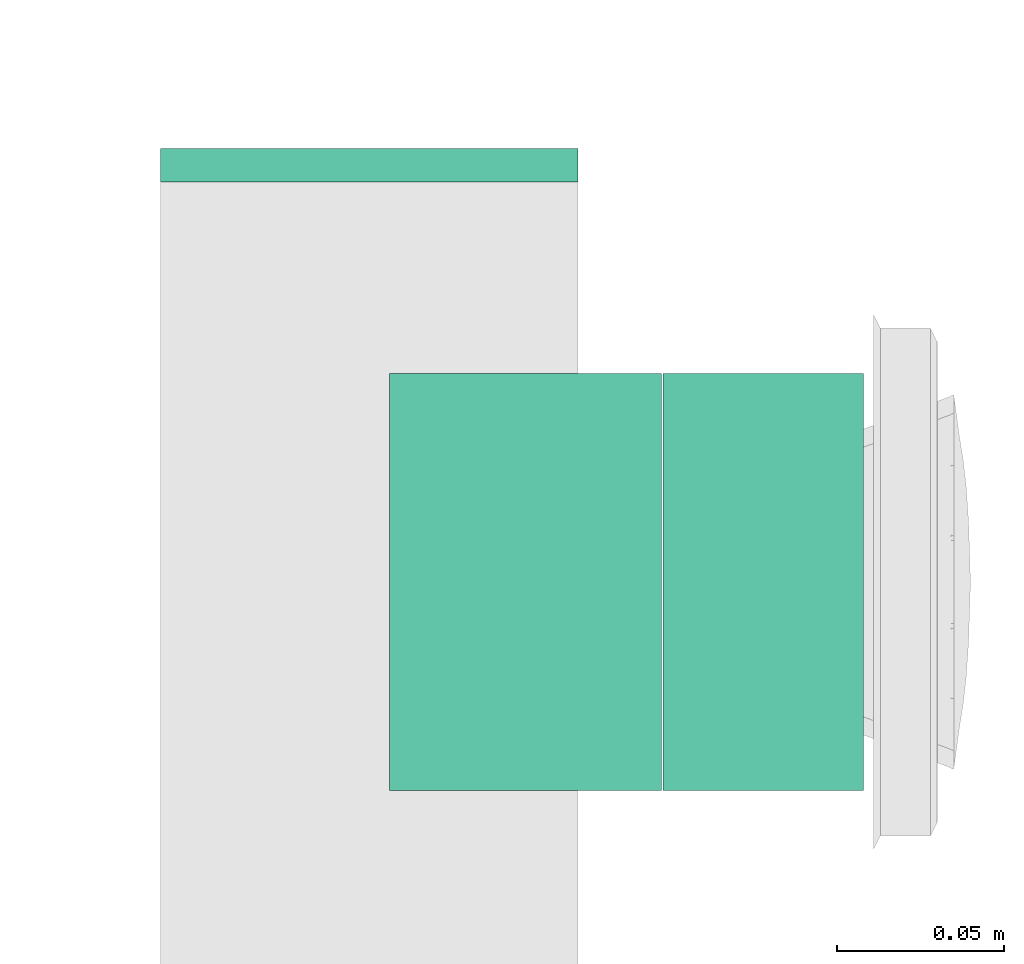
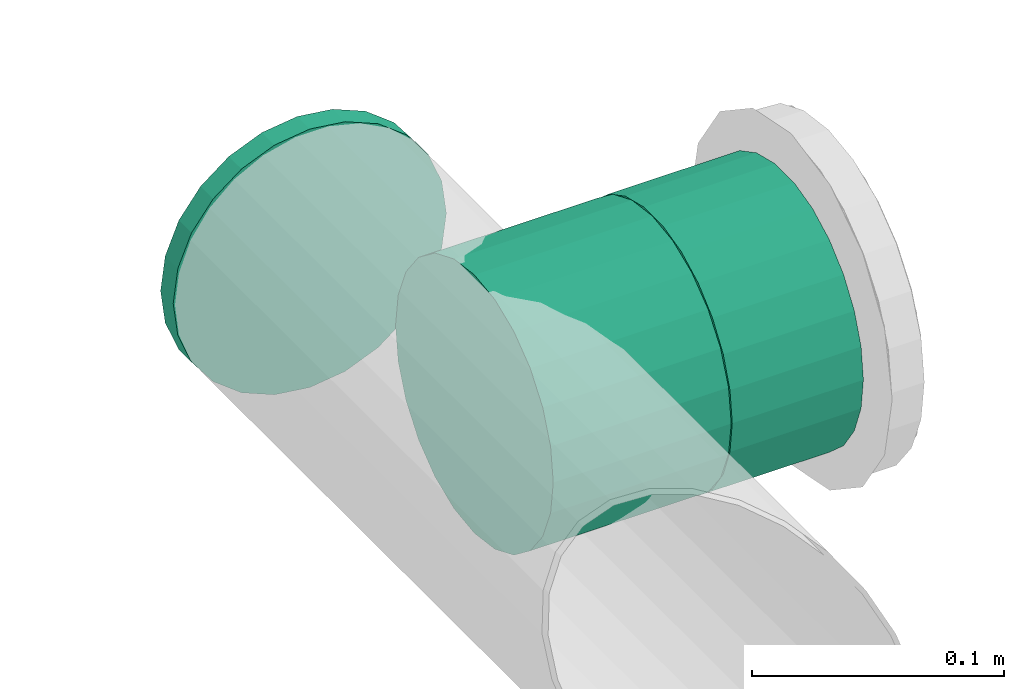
# One storey, part 13 of 63: 2 flow fittings, 1 flow segment.
"""IFC2X3 building model written with IfcOpenShell, lengths in millimetres."""

from ifc_helpers import new_model, entity, si_unit, converted_unit, derived_unit, direction, frame, origin_with_axes, origin_2d_with_axis, place, context, subcontext, project, spatial, hollow_circle, extrude, open_shell, surface_model, source, transform, mapped, type_object, element, save


model = new_model("IFC2X3")

# Units and contexts
model_context = context("Model", 3, precision=0.01, world=frame((0.0, 4.29681676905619e-09, 0.0)), true_north=direction((4.01073788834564e-13, 1.0)))
plan_context = context("Plan", 3, precision=0.01, world=frame((0.0, 4.29681676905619e-09, 0.0)), true_north=direction((4.01073788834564e-13, 1.0)))
body_context = subcontext(model_context, "Body", "Model", "MODEL_VIEW")
ifc_project = project(units=[converted_unit("PLANEANGLEUNIT", "DEGREE", entity("IfcPositiveLengthMeasure", 0.0174532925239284), si_unit("PLANEANGLEUNIT", "RADIAN"), dimensions=[0, 0, 0, 0, 0, 0, 0]), si_unit("AREAUNIT", "SQUARE_METRE"), si_unit("LENGTHUNIT", "METRE", prefix="MILLI"), si_unit("MASSUNIT", "GRAM", prefix="KILO"), si_unit("POWERUNIT", "WATT"), si_unit("PRESSUREUNIT", "PASCAL"), si_unit("FORCEUNIT", "NEWTON", prefix="KILO"), si_unit("ELECTRICVOLTAGEUNIT", "VOLT"), si_unit("ELECTRICCURRENTUNIT", "AMPERE"), si_unit("THERMODYNAMICTEMPERATUREUNIT", "DEGREE_CELSIUS"), si_unit("TIMEUNIT", "SECOND"), si_unit("VOLUMEUNIT", "CUBIC_METRE"), derived_unit("LINEARVELOCITYUNIT", [(si_unit("LENGTHUNIT", "METRE"), 1), (si_unit("TIMEUNIT", "SECOND"), -1)]), derived_unit("VOLUMETRICFLOWRATEUNIT", [(si_unit("VOLUMEUNIT", "CUBIC_METRE"), 1), (si_unit("TIMEUNIT", "SECOND"), -1)]), derived_unit("THERMALTRANSMITTANCEUNIT", [(si_unit("POWERUNIT", "WATT"), 1), (si_unit("THERMODYNAMICTEMPERATUREUNIT", "KELVIN"), -1), (si_unit("AREAUNIT", "SQUARE_METRE"), -1)]), derived_unit("SOUNDPRESSUREUNIT", [(si_unit("PRESSUREUNIT", "PASCAL"), 1)])], contexts=[model_context, plan_context])

# Site, building, storey
site_placement = place(None, frame((0.0, -4.29681676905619e-09, 0.0), z_axis=(0.0, 0.0, 1.0), x_axis=(1.0, 0.0, 0.0)))
site = spatial("IfcSite", under=ifc_project, at=site_placement, CompositionType="ELEMENT")
building_placement = place(site_placement, frame((0.0, 4.29681676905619e-09, 0.0), z_axis=(0.0, 0.0, 1.0), x_axis=(1.0, 0.0, 0.0)))
building = spatial("IfcBuilding", under=site, at=building_placement, Name="mc-building", CompositionType="ELEMENT")
storey_placement = place(building_placement, frame((0.0, 0.0, 210900.0), z_axis=(0.0, 0.0, 1.0), x_axis=(1.0, 0.0, 0.0)))
storey = spatial("IfcBuildingStorey", under=building, at=storey_placement, Name="Nivå F", CompositionType="ELEMENT", Elevation=210900.0)

# Flow fittings
duct_fitting_type_1 = type_object("IfcDuctFittingType", Name="magicirc_tapoutlet_001", PredefinedType="CONNECTOR")
shared_shape_1 = source(origin_with_axes(), body_context, "Body", "SurfaceModel", [
    surface_model("IfcShellBasedSurfaceModel", [(25.0, 0.0, -62.5), (25.0, -31.25, -54.12659), (25.0, -16.17619, -60.37037), (25.0, 44.19417, -44.19417), (25.0, 62.5, 0.0), (25.0, 31.25, -54.12659), (25.0, 54.12659, -31.25), (25.0, -62.5, 0.0), (25.0, -60.37037, -16.17619), (25.0, -60.37037, 16.17619), (25.0, 16.17619, -60.37037), (25.0, -44.19417, -44.19417), (25.0, -54.12659, -31.25), (25.0, 60.37037, -16.17619), (25.0, 60.37037, 16.17619), (25.0, 54.12659, 31.25), (25.0, 44.19417, 44.19417), (25.0, 31.25, 54.12659), (25.0, 0.0, 62.5), (25.0, 16.17619, 60.37037), (25.0, -44.19417, 44.19417), (25.0, -54.12659, 31.25), (25.0, -16.17619, 60.37037), (25.0, -31.25, 54.12659), (0.0, 0.0, 62.5), (0.0, 16.17619, 60.37037), (0.0, 31.25, 54.12659), (0.0, 44.19417, 44.19417), (0.0, 54.12659, 31.25), (0.0, 60.37037, 16.17619), (0.0, 62.5, 0.0), (0.0, 60.37037, -16.17619), (0.0, 54.12659, -31.25), (0.0, 44.19417, -44.19417), (0.0, 31.25, -54.12659), (0.0, 16.17619, -60.37037), (0.0, 0.0, -62.5), (0.0, -16.17619, -60.37037), (0.0, -31.25, -54.12659), (0.0, -44.19417, -44.19417), (0.0, -54.12659, -31.25), (0.0, -60.37037, -16.17619), (0.0, -62.5, 0.0), (0.0, -60.37037, 16.17619), (0.0, -54.12659, 31.25), (0.0, -44.19417, 44.19417), (0.0, -31.25, 54.12659), (0.0, -16.17619, 60.37037), (-56.404, -44.19417, -44.19417), (-56.404, -54.12659, -31.25), (-56.404, -62.5, 0.0), (-56.404, -31.25, -54.12659), (-56.404, 0.0, -62.5), (-56.404, 62.5, 0.0), (-56.404, 60.37037, -16.17619), (-56.404, 60.37037, 16.17619), (-56.404, -16.17619, -60.37037), (-56.404, 16.17619, -60.37037), (-56.404, 31.25, -54.12659), (-56.404, 44.19417, -44.19417), (-56.404, 54.12659, -31.25), (-56.404, -60.37037, 16.17619), (-56.404, -60.37037, -16.17619), (-56.404, 54.12659, 31.25), (-56.404, 44.19417, 44.19417), (-56.404, 16.17619, 60.37037), (-56.404, 31.25, 54.12659), (-56.404, -16.17619, 60.37037), (-56.404, -54.12659, 31.25), (-56.404, -44.19417, 44.19417), (-56.404, -31.25, 54.12659), (-56.404, 0.0, 62.5)], [open_shell([[[0, 1, 2]], [[3, 4, 5]], [[3, 6, 4]], [[7, 8, 9]], [[10, 4, 0]], [[5, 4, 10]], [[11, 0, 9]], [[0, 11, 1]], [[1, 2, 0]], [[12, 9, 8]], [[9, 12, 11]], [[8, 9, 7]], [[4, 6, 13]], [[14, 15, 0]], [[0, 15, 16]], [[0, 17, 18]], [[16, 17, 0]], [[17, 19, 18]], [[0, 20, 21]], [[21, 9, 0]], [[22, 23, 0]], [[23, 20, 0]], [[22, 0, 18]], [[4, 14, 0]], [[24, 18, 19]], [[25, 19, 17]], [[24, 19, 25]], [[26, 16, 27]], [[26, 25, 17]], [[16, 26, 17]], [[28, 15, 14]], [[29, 14, 4]], [[27, 15, 28]], [[29, 28, 14]], [[30, 29, 4]], [[15, 27, 16]], [[30, 4, 13]], [[31, 13, 6]], [[30, 13, 31]], [[32, 3, 33]], [[32, 31, 6]], [[3, 32, 6]], [[34, 5, 10]], [[35, 10, 0]], [[33, 5, 34]], [[35, 34, 10]], [[36, 35, 0]], [[5, 33, 3]], [[36, 0, 2]], [[37, 2, 1]], [[36, 2, 37]], [[38, 11, 39]], [[38, 37, 1]], [[11, 38, 1]], [[40, 12, 8]], [[41, 8, 7]], [[39, 12, 40]], [[41, 40, 8]], [[42, 41, 7]], [[12, 39, 11]], [[42, 7, 9]], [[43, 9, 21]], [[42, 9, 43]], [[44, 20, 45]], [[44, 43, 21]], [[20, 44, 21]], [[46, 23, 22]], [[47, 22, 18]], [[45, 23, 46]], [[47, 46, 22]], [[24, 47, 18]], [[23, 45, 20]], [[15, 0, 14]], [[15, 16, 0]], [[0, 16, 17]], [[18, 17, 19]], [[9, 0, 21]], [[0, 23, 20]], [[18, 22, 0]], [[14, 0, 4]], [[48, 49, 50]], [[48, 50, 51]], [[36, 37, 52]], [[52, 35, 36]], [[53, 54, 55]], [[52, 56, 57]], [[57, 55, 58]], [[59, 55, 60]], [[58, 55, 59]], [[57, 50, 61]], [[56, 51, 50]], [[62, 50, 49]], [[50, 57, 56]], [[54, 60, 55]], [[55, 57, 63]], [[64, 63, 57]], [[57, 65, 66]], [[57, 66, 64]], [[57, 67, 65]], [[68, 69, 57]], [[57, 61, 68]], [[69, 70, 57]], [[57, 70, 67]], [[67, 71, 65]], [[71, 24, 25]], [[66, 25, 26]], [[71, 25, 65]], [[65, 25, 66]], [[26, 64, 66]], [[26, 27, 64]], [[55, 28, 29]], [[53, 29, 30]], [[27, 63, 64]], [[27, 28, 63]], [[63, 28, 55]], [[29, 53, 55]], [[54, 30, 31]], [[60, 31, 32]], [[53, 30, 54]], [[54, 31, 60]], [[32, 59, 60]], [[32, 33, 59]], [[57, 34, 35]], [[33, 58, 59]], [[33, 34, 58]], [[58, 34, 57]], [[35, 52, 57]], [[37, 38, 51]], [[52, 37, 56]], [[48, 51, 38]], [[37, 51, 56]], [[38, 39, 48]], [[62, 40, 41]], [[50, 41, 42]], [[39, 49, 48]], [[39, 40, 49]], [[49, 40, 62]], [[41, 50, 62]], [[43, 44, 68]], [[42, 43, 61]], [[61, 50, 42]], [[68, 61, 43]], [[44, 69, 68]], [[44, 45, 69]], [[67, 46, 47]], [[71, 47, 24]], [[45, 70, 69]], [[45, 46, 70]], [[70, 46, 67]], [[47, 71, 67]], [[57, 63, 55]], [[57, 64, 63]], [[66, 57, 65]], [[66, 64, 57]], [[65, 57, 67]], [[68, 57, 61]]])]),
])
flow_fitting_1_placement = place(storey_placement, frame((531308.90768, 442473.49375, 2163.0), z_axis=(0.0, 0.0, -1.0), x_axis=(1.0, 0.0, 0.0)))
element("IfcFlowFitting", 1, at=flow_fitting_1_placement, inside=storey, type_object=duct_fitting_type_1, Name="magicirc_tapoutlet_001", context=body_context, shape_type="MappedRepresentation", body=[
    mapped(shared_shape_1, transform((0.0, 0.0, 0.0), scale=1.0)),
])
duct_fitting_type_2 = type_object("IfcDuctFittingType", Name="magicirc_plug_001", PredefinedType="OBSTRUCTION")
shared_shape_2 = source(origin_with_axes(), body_context, "Body", "SurfaceModel", [
    surface_model("IfcShellBasedSurfaceModel", [(0.0, 0.0, -62.5), (0.0, -16.17619, -60.37037), (0.0, 16.17619, -60.37037), (0.0, 31.25, -54.12659), (0.0, 54.12659, -31.25), (0.0, 44.19417, -44.19417), (0.0, 60.37037, -16.17619), (0.0, -31.25, -54.12659), (0.0, -44.19417, -44.19417), (0.0, -62.5, 0.0), (0.0, -54.12659, -31.25), (0.0, -60.37037, -16.17619), (0.0, 62.5, 0.0), (0.0, 60.37037, 16.17619), (0.0, 44.19417, 44.19417), (0.0, 54.12659, 31.25), (0.0, 31.25, 54.12659), (0.0, -54.12659, 31.25), (0.0, -16.17619, 60.37037), (0.0, 16.17619, 60.37037), (0.0, -44.19417, 44.19417), (0.0, -31.25, 54.12659), (0.0, -60.37037, 16.17619), (0.0, 0.0, 62.5), (10.0, 16.17619, -60.37037), (10.0, -16.17619, -60.37037), (10.0, 0.0, -62.5), (10.0, 44.19417, -44.19417), (10.0, 31.25, -54.12659), (10.0, 54.12659, -31.25), (10.0, 60.37037, -16.17619), (10.0, -44.19417, -44.19417), (10.0, -31.25, -54.12659), (10.0, -62.5, 0.0), (10.0, -60.37037, -16.17619), (10.0, -54.12659, -31.25), (10.0, -54.12659, 31.25), (10.0, 44.19417, 44.19417), (10.0, 62.5, 0.0), (10.0, 60.37037, 16.17619), (10.0, 54.12659, 31.25), (10.0, 31.25, 54.12659), (10.0, 16.17619, 60.37037), (10.0, -16.17619, 60.37037), (10.0, -31.25, 54.12659), (10.0, -44.19417, 44.19417), (10.0, -60.37037, 16.17619), (10.0, 0.0, 62.5)], [open_shell([[[0, 1, 2]], [[3, 2, 4]], [[4, 2, 1]], [[5, 3, 4]], [[6, 4, 1]], [[7, 8, 1]], [[9, 1, 8]], [[10, 11, 8]], [[9, 8, 11]], [[9, 6, 1]], [[9, 12, 6]], [[13, 12, 14]], [[15, 13, 14]], [[16, 14, 17]], [[9, 17, 14]], [[16, 18, 19]], [[20, 21, 17]], [[17, 9, 22]], [[21, 18, 17]], [[17, 18, 16]], [[18, 23, 19]], [[14, 12, 9]], [[24, 25, 26]], [[27, 24, 28]], [[25, 24, 29]], [[29, 24, 27]], [[25, 29, 30]], [[25, 31, 32]], [[31, 25, 33]], [[31, 34, 35]], [[34, 31, 33]], [[25, 30, 33]], [[30, 36, 33]], [[37, 38, 39]], [[37, 39, 40]], [[37, 41, 42]], [[38, 37, 43]], [[43, 37, 42]], [[36, 44, 45]], [[46, 33, 36]], [[38, 44, 36]], [[43, 44, 38]], [[42, 47, 43]], [[36, 30, 38]], [[46, 9, 33]], [[36, 22, 46]], [[20, 45, 44]], [[36, 45, 17]], [[21, 44, 43]], [[36, 17, 22]], [[22, 9, 46]], [[18, 47, 23]], [[18, 21, 43]], [[20, 44, 21]], [[20, 17, 45]], [[47, 18, 43]], [[41, 19, 42]], [[37, 16, 41]], [[15, 40, 39]], [[37, 40, 14]], [[13, 39, 38]], [[41, 16, 19]], [[19, 23, 42]], [[13, 15, 39]], [[14, 40, 15]], [[14, 16, 37]], [[12, 13, 38]], [[42, 23, 47]], [[30, 12, 38]], [[29, 6, 30]], [[5, 27, 28]], [[29, 27, 4]], [[3, 28, 24]], [[29, 4, 6]], [[6, 12, 30]], [[2, 26, 0]], [[2, 3, 24]], [[5, 28, 3]], [[5, 4, 27]], [[26, 2, 24]], [[32, 1, 25]], [[31, 7, 32]], [[10, 35, 34]], [[31, 35, 8]], [[11, 34, 33]], [[32, 7, 1]], [[1, 0, 25]], [[11, 10, 34]], [[8, 35, 10]], [[8, 7, 31]], [[9, 11, 33]], [[25, 0, 26]]])]),
])
flow_fitting_2_placement = place(storey_placement, frame((531246.40768, 442593.33664, 2163.0), z_axis=(0.0, 0.0, 1.0), x_axis=(0.0, 1.0, 0.0)))
element("IfcFlowFitting", 2, at=flow_fitting_2_placement, inside=storey, type_object=duct_fitting_type_2, Name="magicirc_plug_001", context=body_context, shape_type="MappedRepresentation", body=[
    mapped(shared_shape_2, transform((0.0, 0.0, 0.0), scale=1.0)),
])

# Flow segment
duct_segment_type = type_object("IfcDuctSegmentType", Name="KK001T - Spiro kanaler, Forsinket stål", PredefinedType="RIGIDSEGMENT")
shared_shape_3 = source(origin_with_axes(), body_context, "Body", "SweptSolid", [
    extrude(hollow_circle(Radius=62.5, WallThickness=2.0, at=origin_2d_with_axis()), frame((0.0, 0.0, 0.0), z_axis=(1.0, 0.0, 0.0), x_axis=(0.0, 1.0, 0.0)), (0.0, 0.0, 1.0), 60.0),
])
flow_segment_placement = place(storey_placement, frame((531394.39375, 442473.49375, 2163.0), z_axis=(0.0, 0.0, 1.0), x_axis=(-1.0, 0.0, 0.0)))
element("IfcFlowSegment", 3, at=flow_segment_placement, inside=storey, type_object=duct_segment_type, Name="KK001T - Spiro kanaler, Forsinket stål", context=body_context, shape_type="MappedRepresentation", body=[
    mapped(shared_shape_3, transform((0.0, 0.0, 0.0), scale=1.0)),
])

save(model, "model.ifc")
